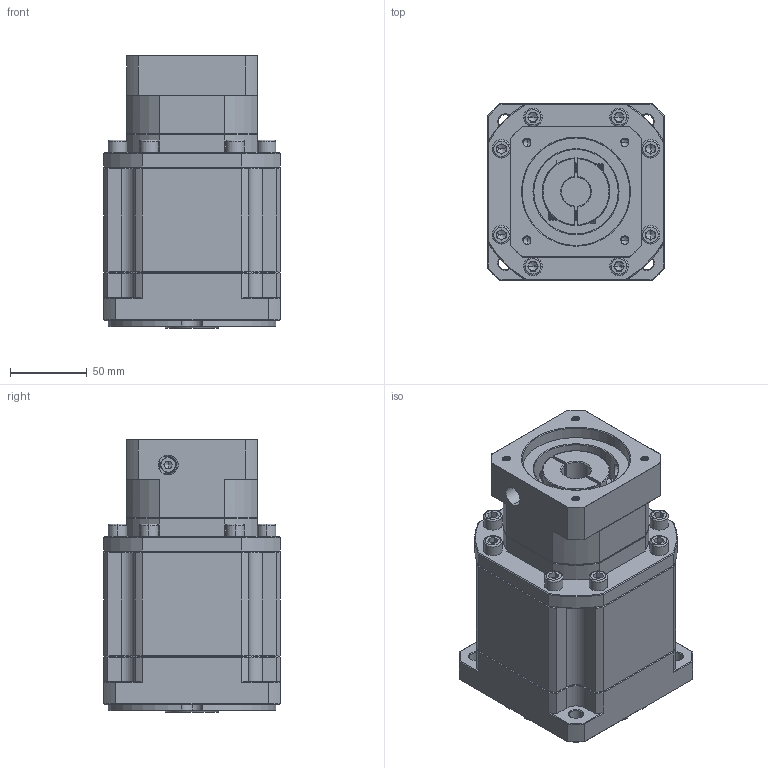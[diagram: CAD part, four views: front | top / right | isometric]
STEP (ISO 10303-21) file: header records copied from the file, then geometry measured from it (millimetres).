
FILE_DESCRIPTION (( 'STEP AP214' ), '1' );
FILE_NAME ('ZB115A-K25-L3-19-70-90-M6.step', '2023-03-03T09:59:24', ( '' ), ( 'Microsoft' ), 'SwSTEP 2.0', 'SolidWorks 2016', '' );
FILE_SCHEMA (( 'AUTOMOTIVE_DESIGN' ));
Length unit declared in the file: millimetre
Products named in the file (1): ZB115A-K25-L3-19-70-90-M6
Bounding box: 115 x 115 x 177.5 mm (x, y, z)
Volume: 1643743.9 mm3; surface area: 142026.4 mm2
Topology: 5 solids, 5 shells, 2050 faces, 5327 edges, 3371 vertices
Faces by surface type: plane 993, cylinder 387, bspline 335, cone 335
Entity records: 106281 total; most frequent: CARTESIAN_POINT 36354, ORIENTED_EDGE 10582, DIRECTION 8630, EDGE_CURVE 5291, VERTEX_POINT 3371, VECTOR 3348, LINE 3348, AXIS2_PLACEMENT_3D 2641
